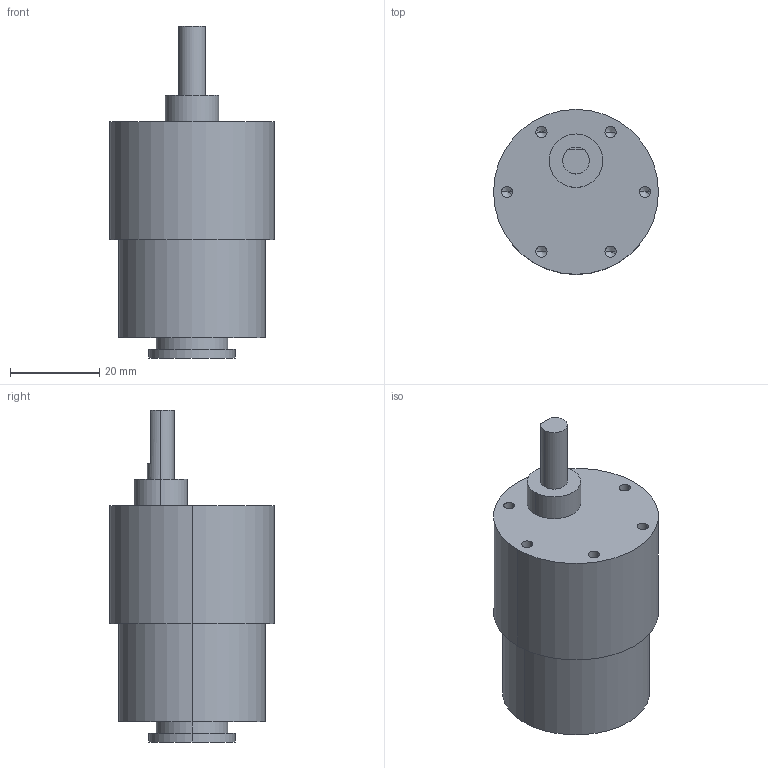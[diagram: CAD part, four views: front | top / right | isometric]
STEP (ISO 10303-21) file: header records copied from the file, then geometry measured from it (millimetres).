
FILE_DESCRIPTION (( 'STEP AP203' ), '1' );
FILE_NAME ('520晤鎢ん萇儂.STEP', '2022-10-12T01:40:09', ( '' ), ( '' ), 'SwSTEP 2.0', 'SolidWorks 2016', '' );
FILE_SCHEMA (( 'CONFIG_CONTROL_DESIGN' ));
Length unit declared in the file: millimetre
Products named in the file (1): 520晤鎢ん萇儂
Bounding box: 37 x 37 x 74.5 mm (x, y, z)
Volume: 49269.2 mm3; surface area: 8816 mm2
Topology: 1 solids, 1 shells, 45 faces, 102 edges, 58 vertices
Faces by surface type: cylinder 24, cone 12, plane 9
Entity records: 1263 total; most frequent: DIRECTION 232, CARTESIAN_POINT 194, ORIENTED_EDGE 180, AXIS2_PLACEMENT_3D 96, EDGE_CURVE 90, VERTEX_POINT 58, EDGE_LOOP 56, CIRCLE 50
